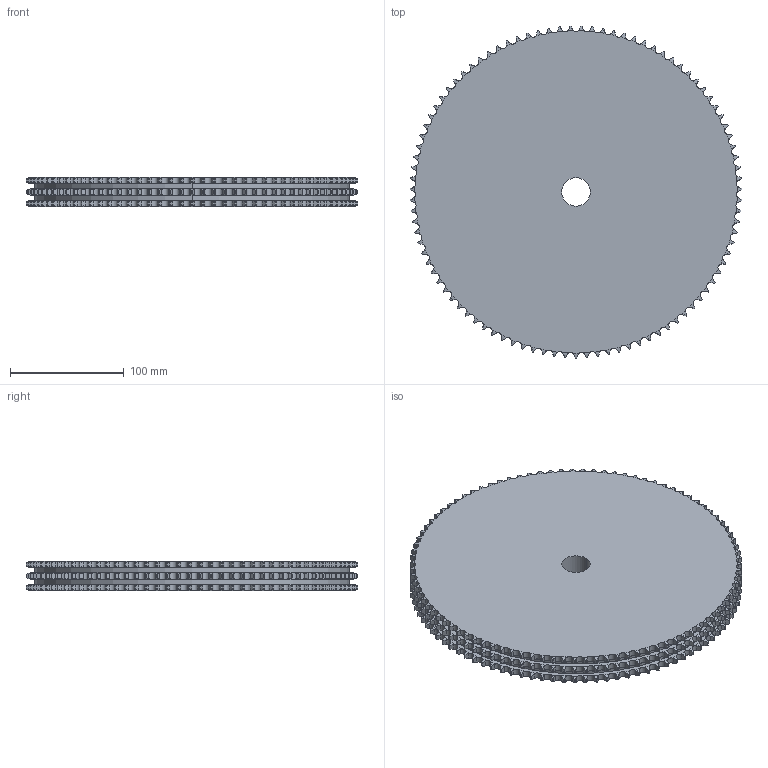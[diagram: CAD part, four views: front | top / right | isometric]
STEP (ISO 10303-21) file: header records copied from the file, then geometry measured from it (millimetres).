
FILE_DESCRIPTION((''),'2;1');
FILE_NAME('500-103-0095_PRT','2021-02-12T',('Brieden'),('Brieden'),'PRO/ENGINEER BY PARAMETRIC TECHNOLOGY CORPORATION, 2010160','PRO/ENGINEER BY PARAMETRIC TECHNOLOGY CORPORATION, 2010160','');
FILE_SCHEMA(('AUTOMOTIVE_DESIGN { 1 0 10303 214 1 1 1 1 }'));
Length unit declared in the file: millimetre
Products named in the file (1): 500-103-0095_PRT
Bounding box: 291.39 x 291.35 x 25.6 mm (x, y, z)
Volume: 1582821.2 mm3; surface area: 173709.2 mm2
Topology: 1 solids, 1 shells, 1722 faces, 5148 edges, 3432 vertices
Faces by surface type: cylinder 1146, torus 570, plane 6
Entity records: 84076 total; most frequent: CARTESIAN_POINT 25009, ORIENTED_EDGE 10296, DIRECTION 8034, PRESENTATION_STYLE_ASSIGNMENT 5149, STYLED_ITEM 5149, CURVE_STYLE 5148, EDGE_CURVE 5148, AXIS2_PLACEMENT_3D 3444
